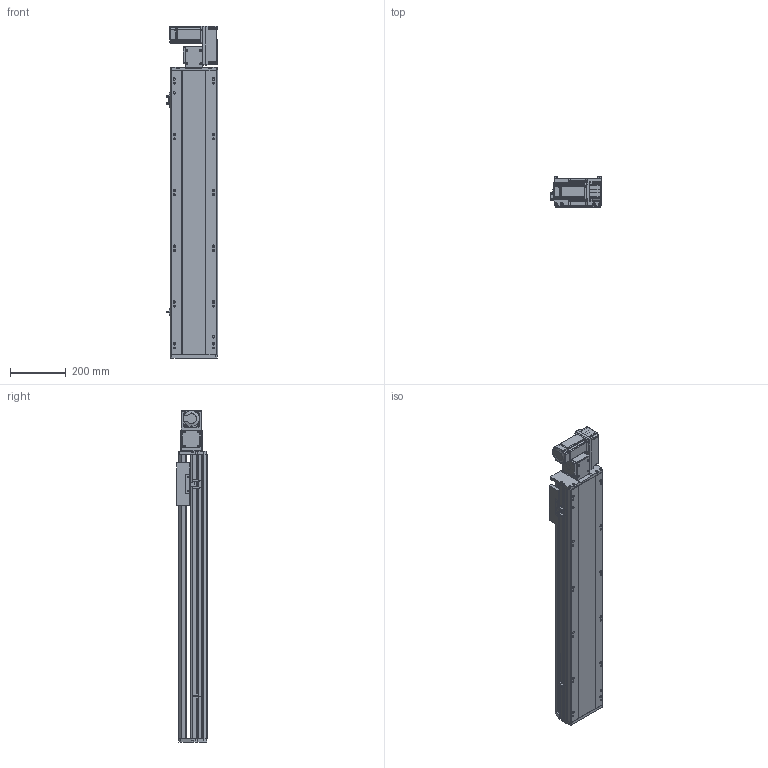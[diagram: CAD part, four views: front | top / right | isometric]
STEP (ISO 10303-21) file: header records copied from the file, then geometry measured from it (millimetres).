
FILE_DESCRIPTION (( 'STEP AP214' ), '1' );
FILE_NAME ('RTB17S-XX-750-R-M40-C4.STEP', '2025-12-11T07:36:19', ( '' ), ( '' ), 'SwSTEP 2.0', 'SolidWorks 2018', '' );
FILE_SCHEMA (( 'AUTOMOTIVE_DESIGN' ));
Length unit declared in the file: millimetre
Products named in the file (14): RTB14-L-018P^RTB17S-R-々湍釱蚾饜-400W_RTB17S-XX-XX-R-M40-C4; RTB17-R-011菁釱^RTB17S-XX-XX-R-M40-C4; OMRON EE-SX672 传感器^RTB17S-XX-XX-R-M40-C4; RTB14-L-008-M20--萇儂啣^RTB17S-R-々湍釱蚾饜-400W_RTB17S-XX-XX-R-M40-C4; RTB17S-L-004佪裝蹟譫蟀諉釱^RTB17S-XX-XX-R-M40-C4; RTB17S-L-001耜醱啣^RTB17S-XX-XX-R-M40-C4; RTB14-L-017P^RTB17S-R-々湍釱蚾饜-400W_RTB17S-XX-XX-R-M40-C4; RTH13-BL-012覜茼え俋离^RTB17S-XX-XX-R-M40-C4; RTB17S-L-007奻裔^RTB17S-XX-XX-R-M40-C4; RTB14-L-005P--轴承塑胶压盖^RTB17S-R-皮带座装配-400W_RTB17S-XX-XX-R-M40-C4; RTB17S-XX-750-R-M40-C4; 400W侜督萇儂^RTB17S-XX-XX-R-M40-C4; RTB17S-R-々湍釱蚾饜-400W^RTB17S-XX-XX-R-M40-C4; RTB17S-L-014-T20--々湍釱^RTB17S-R-々湍釱蚾饜-400W_RTB17S-XX-XX-R-M40-C4
Assembly tree (16 placements, depth 3):
  RTB17S-XX-750-R-M40-C4
    RTB17-R-011菁釱^RTB17S-XX-XX-R-M40-C4
    RTB17S-L-007奻裔^RTB17S-XX-XX-R-M40-C4
    OMRON EE-SX672 传感器^RTB17S-XX-XX-R-M40-C4  x3
    RTB17S-L-001耜醱啣^RTB17S-XX-XX-R-M40-C4
    400W侜督萇儂^RTB17S-XX-XX-R-M40-C4
    RTB17S-L-004佪裝蹟譫蟀諉釱^RTB17S-XX-XX-R-M40-C4
    RTH13-BL-012覜茼え俋离^RTB17S-XX-XX-R-M40-C4
    RTB17S-R-々湍釱蚾饜-400W^RTB17S-XX-XX-R-M40-C4
      RTB17S-L-014-T20--々湍釱^RTB17S-R-々湍釱蚾饜-400W_RTB17S-XX-XX-R-M40-C4
      RTB14-L-005P--轴承塑胶压盖^RTB17S-R-皮带座装配-400W_RTB17S-XX-XX-R-M40-C4
      RTB14-L-008-M20--萇儂啣^RTB17S-R-々湍釱蚾饜-400W_RTB17S-XX-XX-R-M40-C4
      RTB14-L-017P^RTB17S-R-々湍釱蚾饜-400W_RTB17S-XX-XX-R-M40-C4  x2
      RTB14-L-018P^RTB17S-R-々湍釱蚾饜-400W_RTB17S-XX-XX-R-M40-C4
Bounding box: 183.5 x 108 x 1191 mm (x, y, z)
Volume: 10335640.5 mm3; surface area: 1275742 mm2
Topology: 15 solids, 15 shells, 2189 faces, 6033 edges, 3933 vertices
Faces by surface type: plane 1066, cylinder 675, bspline 301, cone 139, torus 8
Entity records: 61865 total; most frequent: CARTESIAN_POINT 17238, ORIENTED_EDGE 8910, DIRECTION 8306, EDGE_CURVE 4455, VERTEX_POINT 2921, AXIS2_PLACEMENT_3D 2851, VECTOR 2604, LINE 2604
